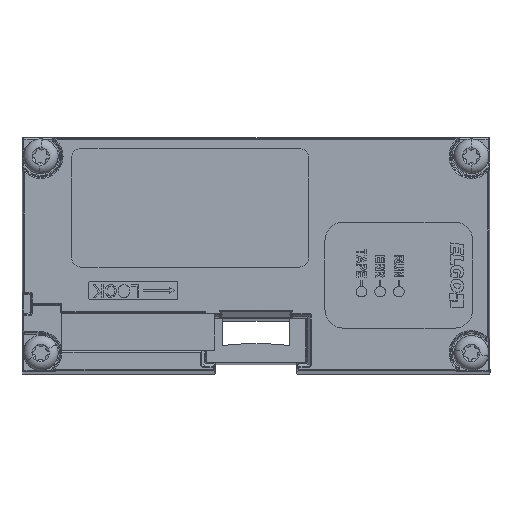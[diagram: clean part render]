
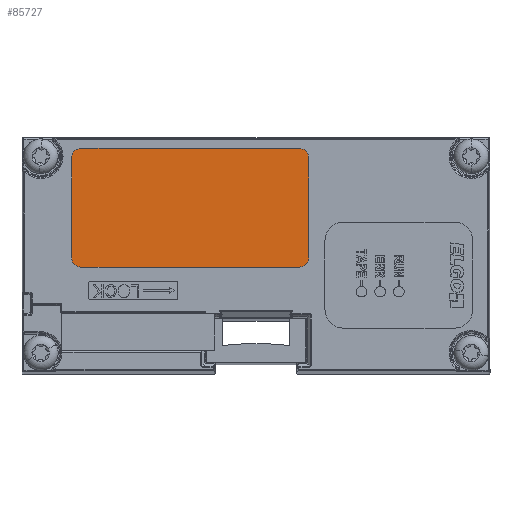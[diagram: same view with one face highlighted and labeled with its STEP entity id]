
A CAD part, top view. The second image highlights one B-rep face of the part: STEP entity #85727.
In plain terms, the highlighted planar face has unit normal (0, 0, 1).
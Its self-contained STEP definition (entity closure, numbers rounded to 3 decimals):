
#305 = DIRECTION ( 'NONE',  ( 0., 0., 1. ) ) ;
#7708 = FACE_OUTER_BOUND ( 'NONE', #168737, .T. ) ;
#8562 = CARTESIAN_POINT ( 'NONE',  ( -30.082, 0.019, 131.622 ) ) ;
#13390 = VECTOR ( 'NONE', #81204, 1000. ) ;
#15371 = LINE ( 'NONE', #131344, #167985 ) ;
#16429 = DIRECTION ( 'NONE',  ( 0., -1., 0. ) ) ;
#19503 = CARTESIAN_POINT ( 'NONE',  ( 6.418, 17.519, 131.622 ) ) ;
#21197 = DIRECTION ( 'NONE',  ( 0., 1., 0. ) ) ;
#21789 = VECTOR ( 'NONE', #162605, 1000. ) ;
#23580 = CARTESIAN_POINT ( 'NONE',  ( -30.082, 16.019, 131.622 ) ) ;
#29665 = CARTESIAN_POINT ( 'NONE',  ( 6.418, 16.019, 131.622 ) ) ;
#35387 = CARTESIAN_POINT ( 'NONE',  ( -28.582, 17.519, 131.622 ) ) ;
#36850 = VERTEX_POINT ( 'NONE', #188284 ) ;
#38210 = EDGE_CURVE ( 'NONE', #111696, #96708, #181452, .T. ) ;
#50011 = CIRCLE ( 'NONE', #87304, 1.5 ) ;
#50896 = LINE ( 'NONE', #62630, #21789 ) ;
#54655 = DIRECTION ( 'NONE',  ( 0., 0., -1. ) ) ;
#58665 = ORIENTED_EDGE ( 'NONE', *, *, #205158, .T. ) ;
#62630 = CARTESIAN_POINT ( 'NONE',  ( 7.918, 0.519, 131.622 ) ) ;
#63174 = LINE ( 'NONE', #179191, #13390 ) ;
#65121 = DIRECTION ( 'NONE',  ( 0., 0., 1. ) ) ;
#66013 = CARTESIAN_POINT ( 'NONE',  ( -28.582, 0.019, 131.622 ) ) ;
#68519 = DIRECTION ( 'NONE',  ( 0., 1., 0. ) ) ;
#69630 = CARTESIAN_POINT ( 'NONE',  ( -0.532, -1.481, 131.622 ) ) ;
#71229 = VERTEX_POINT ( 'NONE', #23580 ) ;
#72721 = EDGE_CURVE ( 'NONE', #96708, #36850, #107536, .T. ) ;
#76509 = DIRECTION ( 'NONE',  ( 0., 0., 1. ) ) ;
#78587 = DIRECTION ( 'NONE',  ( 0., 1., 0. ) ) ;
#80538 = ORIENTED_EDGE ( 'NONE', *, *, #195177, .T. ) ;
#81204 = DIRECTION ( 'NONE',  ( -1., 0., 0. ) ) ;
#85727 = ADVANCED_FACE ( 'NONE', ( #7708 ), #135490, .F. ) ;
#87304 = AXIS2_PLACEMENT_3D ( 'NONE', #194153, #305, #68519 ) ;
#91939 = ORIENTED_EDGE ( 'NONE', *, *, #38210, .T. ) ;
#92776 = ORIENTED_EDGE ( 'NONE', *, *, #111201, .T. ) ;
#94365 = AXIS2_PLACEMENT_3D ( 'NONE', #29665, #76509, #78587 ) ;
#96708 = VERTEX_POINT ( 'NONE', #199291 ) ;
#99377 = VECTOR ( 'NONE', #134486, 1000. ) ;
#100742 = EDGE_CURVE ( 'NONE', #71229, #176334, #15371, .T. ) ;
#107536 = CIRCLE ( 'NONE', #165463, 1.5 ) ;
#111201 = EDGE_CURVE ( 'NONE', #167440, #188481, #189604, .T. ) ;
#111696 = VERTEX_POINT ( 'NONE', #139604 ) ;
#112373 = ORIENTED_EDGE ( 'NONE', *, *, #72721, .T. ) ;
#117470 = DIRECTION ( 'NONE',  ( 1., 0., 0. ) ) ;
#122598 = VERTEX_POINT ( 'NONE', #35387 ) ;
#123271 = ORIENTED_EDGE ( 'NONE', *, *, #180491, .T. ) ;
#124540 = CIRCLE ( 'NONE', #168766, 1.5 ) ;
#131344 = CARTESIAN_POINT ( 'NONE',  ( -30.082, 0.519, 131.622 ) ) ;
#134486 = DIRECTION ( 'NONE',  ( 1., 0., 0. ) ) ;
#135490 = PLANE ( 'NONE',  #150458 ) ;
#139604 = CARTESIAN_POINT ( 'NONE',  ( -28.582, -1.481, 131.622 ) ) ;
#141000 = CARTESIAN_POINT ( 'NONE',  ( 6.418, 0.019, 131.622 ) ) ;
#150458 = AXIS2_PLACEMENT_3D ( 'NONE', #200533, #54655, #117470 ) ;
#156508 = ORIENTED_EDGE ( 'NONE', *, *, #100742, .T. ) ;
#162605 = DIRECTION ( 'NONE',  ( 0., 1., 0. ) ) ;
#163884 = DIRECTION ( 'NONE',  ( 0., 0., 1. ) ) ;
#165463 = AXIS2_PLACEMENT_3D ( 'NONE', #141000, #65121, #188996 ) ;
#167440 = VERTEX_POINT ( 'NONE', #204457 ) ;
#167985 = VECTOR ( 'NONE', #16429, 1000. ) ;
#168737 = EDGE_LOOP ( 'NONE', ( #91939, #112373, #58665, #92776, #123271, #170452, #156508, #80538 ) ) ;
#168766 = AXIS2_PLACEMENT_3D ( 'NONE', #66013, #163884, #21197 ) ;
#169290 = EDGE_CURVE ( 'NONE', #122598, #71229, #50011, .T. ) ;
#170452 = ORIENTED_EDGE ( 'NONE', *, *, #169290, .T. ) ;
#176334 = VERTEX_POINT ( 'NONE', #8562 ) ;
#179191 = CARTESIAN_POINT ( 'NONE',  ( -0.532, 17.519, 131.622 ) ) ;
#180491 = EDGE_CURVE ( 'NONE', #188481, #122598, #63174, .T. ) ;
#181452 = LINE ( 'NONE', #69630, #99377 ) ;
#188284 = CARTESIAN_POINT ( 'NONE',  ( 7.918, 0.019, 131.622 ) ) ;
#188481 = VERTEX_POINT ( 'NONE', #19503 ) ;
#188996 = DIRECTION ( 'NONE',  ( 0., 1., 0. ) ) ;
#189604 = CIRCLE ( 'NONE', #94365, 1.5 ) ;
#194153 = CARTESIAN_POINT ( 'NONE',  ( -28.582, 16.019, 131.622 ) ) ;
#195177 = EDGE_CURVE ( 'NONE', #176334, #111696, #124540, .T. ) ;
#199291 = CARTESIAN_POINT ( 'NONE',  ( 6.418, -1.481, 131.622 ) ) ;
#200533 = CARTESIAN_POINT ( 'NONE',  ( -0.532, 0.519, 131.622 ) ) ;
#204457 = CARTESIAN_POINT ( 'NONE',  ( 7.918, 16.019, 131.622 ) ) ;
#205158 = EDGE_CURVE ( 'NONE', #36850, #167440, #50896, .T. ) ;
